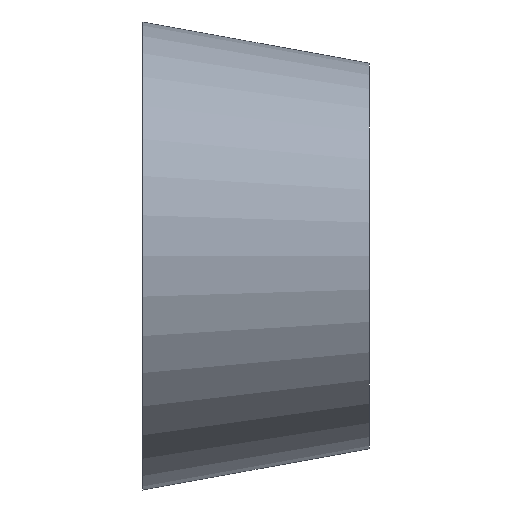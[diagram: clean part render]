
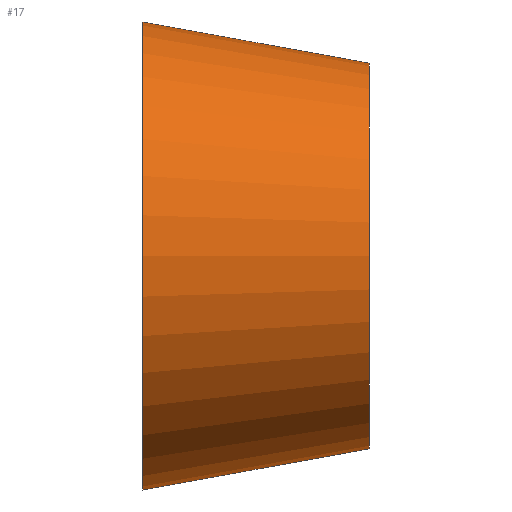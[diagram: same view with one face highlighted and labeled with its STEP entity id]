
A CAD part, front view. The second image highlights one B-rep face of the part: STEP entity #17.
In plain terms, the highlighted free-form (B-spline) face has degree [14, 1] with [28, 2] control points.
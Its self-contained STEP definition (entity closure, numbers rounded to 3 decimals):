
#17 = ADVANCED_FACE('',(#18),#31,.T.);
#18 = FACE_BOUND('',#19,.T.);
#19 = EDGE_LOOP('',(#20,#106,#128,#155));
#20 = ORIENTED_EDGE('',*,*,#21,.T.);
#21 = EDGE_CURVE('',#22,#22,#24,.T.);
#22 = VERTEX_POINT('',#23);
#23 = CARTESIAN_POINT('',(0.,42.5,0.));
#24 = SURFACE_CURVE('',#25,(#30,#94),.PCURVE_S1.);
#25 = CIRCLE('',#26,42.5);
#26 = AXIS2_PLACEMENT_3D('',#27,#28,#29);
#27 = CARTESIAN_POINT('',(0.,0.,0.));
#28 = DIRECTION('',(1.,0.,0.));
#29 = DIRECTION('',(0.,1.,0.));
#30 = PCURVE('',#31,#88);
#31 = B_SPLINE_SURFACE_WITH_KNOTS('',14,1,(
    (#32,#33)
    ,(#34,#35)
    ,(#36,#37)
    ,(#38,#39)
    ,(#40,#41)
    ,(#42,#43)
    ,(#44,#45)
    ,(#46,#47)
    ,(#48,#49)
    ,(#50,#51)
    ,(#52,#53)
    ,(#54,#55)
    ,(#56,#57)
    ,(#58,#59)
    ,(#60,#61)
    ,(#62,#63)
    ,(#64,#65)
    ,(#66,#67)
    ,(#68,#69)
    ,(#70,#71)
    ,(#72,#73)
    ,(#74,#75)
    ,(#76,#77)
    ,(#78,#79)
    ,(#80,#81)
    ,(#82,#83)
    ,(#84,#85)
    ,(#86,#87
    )),.UNSPECIFIED.,.T.,.F.,.F.,(15,13,15),(2,2),(0.,3.142,
    6.283),(0.,1.),.UNSPECIFIED.);
#32 = CARTESIAN_POINT('',(0.,42.5,0.));
#33 = CARTESIAN_POINT('',(41.2,27.5,0.));
#34 = CARTESIAN_POINT('',(0.,42.5,9.537));
#35 = CARTESIAN_POINT('',(41.2,27.5,7.854
    ));
#36 = CARTESIAN_POINT('',(0.,40.195,19.074));
#37 = CARTESIAN_POINT('',(41.2,25.602,
    15.708));
#38 = CARTESIAN_POINT('',(0.,35.586,28.008));
#39 = CARTESIAN_POINT('',(41.2,21.806,
    23.065));
#40 = CARTESIAN_POINT('',(0.,28.844,35.734));
#41 = CARTESIAN_POINT('',(41.2,16.254,29.428));
#42 = CARTESIAN_POINT('',(0.,20.314,41.705));
#43 = CARTESIAN_POINT('',(41.2,9.23,34.346
    ));
#44 = CARTESIAN_POINT('',(0.,10.495,45.479));
#45 = CARTESIAN_POINT('',(41.2,1.143,37.453));
#46 = CARTESIAN_POINT('',(0.,0.,46.77));
#47 = CARTESIAN_POINT('',(41.2,-7.5,38.517));
#48 = CARTESIAN_POINT('',(0.,-10.495,45.479));
#49 = CARTESIAN_POINT('',(41.2,-16.143,37.453));
#50 = CARTESIAN_POINT('',(0.,-20.314,41.705));
#51 = CARTESIAN_POINT('',(41.2,-24.23,34.346));
#52 = CARTESIAN_POINT('',(0.,-28.844,35.734));
#53 = CARTESIAN_POINT('',(41.2,-31.254,29.428));
#54 = CARTESIAN_POINT('',(0.,-35.586,28.008));
#55 = CARTESIAN_POINT('',(41.2,-36.806,23.065));
#56 = CARTESIAN_POINT('',(0.,-40.195,19.074));
#57 = CARTESIAN_POINT('',(41.2,-40.602,15.708));
#58 = CARTESIAN_POINT('',(0.,-42.5,9.537));
#59 = CARTESIAN_POINT('',(41.2,-42.5,7.854));
#60 = CARTESIAN_POINT('',(0.,-42.5,-9.537));
#61 = CARTESIAN_POINT('',(41.2,-42.5,-7.854));
#62 = CARTESIAN_POINT('',(0.,-40.195,-19.074));
#63 = CARTESIAN_POINT('',(41.2,-40.602,-15.708));
#64 = CARTESIAN_POINT('',(0.,-35.586,-28.008));
#65 = CARTESIAN_POINT('',(41.2,-36.806,-23.065));
#66 = CARTESIAN_POINT('',(0.,-28.844,-35.734));
#67 = CARTESIAN_POINT('',(41.2,-31.254,-29.428));
#68 = CARTESIAN_POINT('',(0.,-20.314,-41.705));
#69 = CARTESIAN_POINT('',(41.2,-24.23,-34.346));
#70 = CARTESIAN_POINT('',(0.,-10.495,-45.479));
#71 = CARTESIAN_POINT('',(41.2,-16.143,-37.453));
#72 = CARTESIAN_POINT('',(0.,0.,-46.77));
#73 = CARTESIAN_POINT('',(41.2,-7.5,-38.517));
#74 = CARTESIAN_POINT('',(0.,10.495,-45.479));
#75 = CARTESIAN_POINT('',(41.2,1.143,-37.453));
#76 = CARTESIAN_POINT('',(0.,20.314,-41.705));
#77 = CARTESIAN_POINT('',(41.2,9.23,-34.346
    ));
#78 = CARTESIAN_POINT('',(0.,28.844,-35.734));
#79 = CARTESIAN_POINT('',(41.2,16.254,
    -29.428));
#80 = CARTESIAN_POINT('',(0.,35.586,-28.008));
#81 = CARTESIAN_POINT('',(41.2,21.806,
    -23.065));
#82 = CARTESIAN_POINT('',(0.,40.195,-19.074));
#83 = CARTESIAN_POINT('',(41.2,25.602,-15.708
    ));
#84 = CARTESIAN_POINT('',(0.,42.5,-9.537));
#85 = CARTESIAN_POINT('',(41.2,27.5,
    -7.854));
#86 = CARTESIAN_POINT('',(0.,42.5,0.));
#87 = CARTESIAN_POINT('',(41.2,27.5,0.));
#88 = DEFINITIONAL_REPRESENTATION('',(#89),#93);
#89 = LINE('',#90,#91);
#90 = CARTESIAN_POINT('',(0.,0.));
#91 = VECTOR('',#92,1.);
#92 = DIRECTION('',(1.,0.));
#93 = ( GEOMETRIC_REPRESENTATION_CONTEXT(2) 
PARAMETRIC_REPRESENTATION_CONTEXT() REPRESENTATION_CONTEXT('2D SPACE',''
  ) );
#94 = PCURVE('',#95,#100);
#95 = PLANE('',#96);
#96 = AXIS2_PLACEMENT_3D('',#97,#98,#99);
#97 = CARTESIAN_POINT('',(0.,0.,0.));
#98 = DIRECTION('',(1.,0.,0.));
#99 = DIRECTION('',(0.,1.,0.));
#100 = DEFINITIONAL_REPRESENTATION('',(#101),#105);
#101 = CIRCLE('',#102,42.5);
#102 = AXIS2_PLACEMENT_2D('',#103,#104);
#103 = CARTESIAN_POINT('',(0.,0.));
#104 = DIRECTION('',(1.,0.));
#105 = ( GEOMETRIC_REPRESENTATION_CONTEXT(2) 
PARAMETRIC_REPRESENTATION_CONTEXT() REPRESENTATION_CONTEXT('2D SPACE',''
  ) );
#106 = ORIENTED_EDGE('',*,*,#107,.T.);
#107 = EDGE_CURVE('',#22,#108,#110,.T.);
#108 = VERTEX_POINT('',#109);
#109 = CARTESIAN_POINT('',(41.2,27.5,0.));
#110 = SEAM_CURVE('',#111,(#114,#121),.PCURVE_S1.);
#111 = B_SPLINE_CURVE_WITH_KNOTS('',1,(#112,#113),.UNSPECIFIED.,.F.,.F.,
  (2,2),(0.,1.),.PIECEWISE_BEZIER_KNOTS.);
#112 = CARTESIAN_POINT('',(0.,42.5,0.));
#113 = CARTESIAN_POINT('',(41.2,27.5,0.));
#114 = PCURVE('',#31,#115);
#115 = DEFINITIONAL_REPRESENTATION('',(#116),#120);
#116 = LINE('',#117,#118);
#117 = CARTESIAN_POINT('',(6.283,0.));
#118 = VECTOR('',#119,1.);
#119 = DIRECTION('',(0.,1.));
#120 = ( GEOMETRIC_REPRESENTATION_CONTEXT(2) 
PARAMETRIC_REPRESENTATION_CONTEXT() REPRESENTATION_CONTEXT('2D SPACE',''
  ) );
#121 = PCURVE('',#31,#122);
#122 = DEFINITIONAL_REPRESENTATION('',(#123),#127);
#123 = LINE('',#124,#125);
#124 = CARTESIAN_POINT('',(0.,0.));
#125 = VECTOR('',#126,1.);
#126 = DIRECTION('',(0.,1.));
#127 = ( GEOMETRIC_REPRESENTATION_CONTEXT(2) 
PARAMETRIC_REPRESENTATION_CONTEXT() REPRESENTATION_CONTEXT('2D SPACE',''
  ) );
#128 = ORIENTED_EDGE('',*,*,#129,.F.);
#129 = EDGE_CURVE('',#108,#108,#130,.T.);
#130 = SURFACE_CURVE('',#131,(#136,#143),.PCURVE_S1.);
#131 = CIRCLE('',#132,35.);
#132 = AXIS2_PLACEMENT_3D('',#133,#134,#135);
#133 = CARTESIAN_POINT('',(41.2,-7.5,0.));
#134 = DIRECTION('',(1.,0.,0.));
#135 = DIRECTION('',(0.,1.,0.));
#136 = PCURVE('',#31,#137);
#137 = DEFINITIONAL_REPRESENTATION('',(#138),#142);
#138 = LINE('',#139,#140);
#139 = CARTESIAN_POINT('',(0.,1.));
#140 = VECTOR('',#141,1.);
#141 = DIRECTION('',(1.,0.));
#142 = ( GEOMETRIC_REPRESENTATION_CONTEXT(2) 
PARAMETRIC_REPRESENTATION_CONTEXT() REPRESENTATION_CONTEXT('2D SPACE',''
  ) );
#143 = PCURVE('',#144,#149);
#144 = PLANE('',#145);
#145 = AXIS2_PLACEMENT_3D('',#146,#147,#148);
#146 = CARTESIAN_POINT('',(41.2,-7.5,0.));
#147 = DIRECTION('',(1.,0.,0.));
#148 = DIRECTION('',(0.,1.,0.));
#149 = DEFINITIONAL_REPRESENTATION('',(#150),#154);
#150 = CIRCLE('',#151,35.);
#151 = AXIS2_PLACEMENT_2D('',#152,#153);
#152 = CARTESIAN_POINT('',(0.,0.));
#153 = DIRECTION('',(1.,0.));
#154 = ( GEOMETRIC_REPRESENTATION_CONTEXT(2) 
PARAMETRIC_REPRESENTATION_CONTEXT() REPRESENTATION_CONTEXT('2D SPACE',''
  ) );
#155 = ORIENTED_EDGE('',*,*,#107,.F.);
